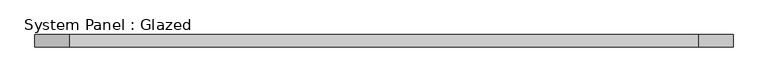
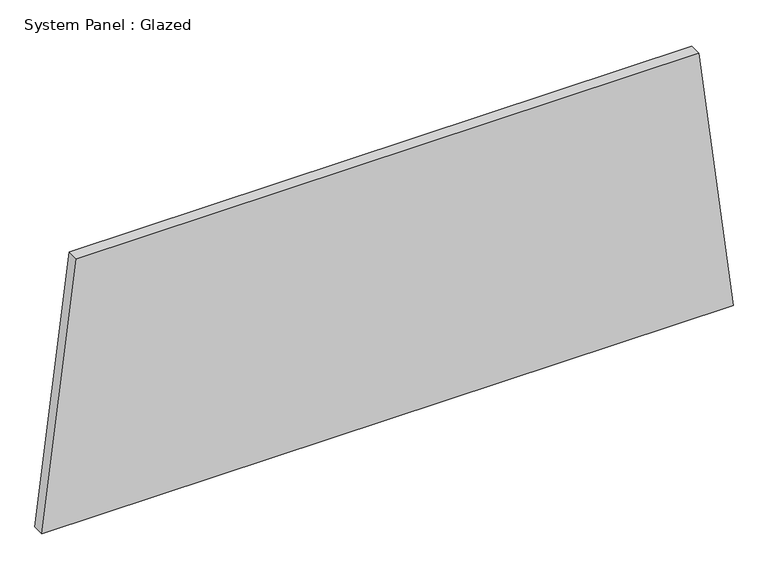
"""IFC4 building model written with IfcOpenShell, lengths in millimetres: plate geometry, System Panel : Glazed."""

from ifc_helpers import new_model, si_unit, frame, origin, place, context, project, spatial, polyline, outline, extrude, source, transform, mapped, element, save


def system_panel_glazed_529724de(model_context):
    return source(origin(), model_context, "Body", "SweptSolid", [
        extrude(outline(polyline([(0.0, -718.4322295), (0.0, 718.4322295), (579.5793733, 646.6634195), (579.5793733, -646.6634195), (0.0, -718.4322295)])), frame((0.0, -44.45, 0.0), z_axis=(0.0, 1.0, 0.0), x_axis=(0.0, 0.0, 1.0)), (0.0, 0.0, 1.0), 25.4),
    ])


if __name__ == "__main__":
    model = new_model("IFC4")
    model_context = context("Model", 3, world=origin())
    ifc_project = project(units=[si_unit("LENGTHUNIT", "METRE", prefix="MILLI")], contexts=[model_context])
    site = spatial("IfcSite", under=ifc_project)
    building = spatial("IfcBuilding", under=site)
    placement = place(None, origin())
    system_panel_glazed_shape = system_panel_glazed_529724de(model_context)
    element("IfcPlate", 1, ObjectType="System Panel : Glazed", at=placement, inside=building, context=model_context, shape_type="MappedRepresentation", body=[
        mapped(system_panel_glazed_shape, transform((0.0, 0.0, 0.0), x_axis=(1.0, 0.0, 0.0), y_axis=(0.0, 1.0, 0.0), z_axis=(0.0, 0.0, 1.0))),
    ])
    save(model, "model.ifc")
